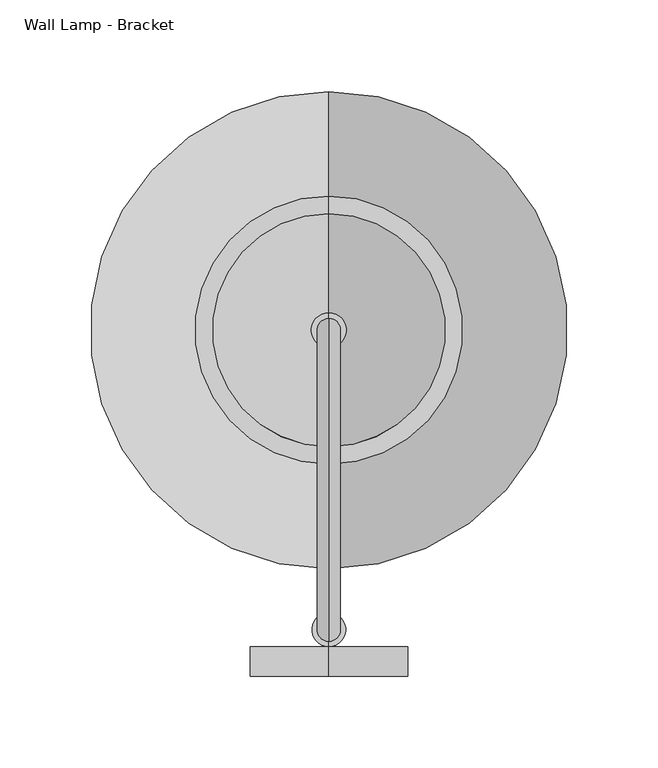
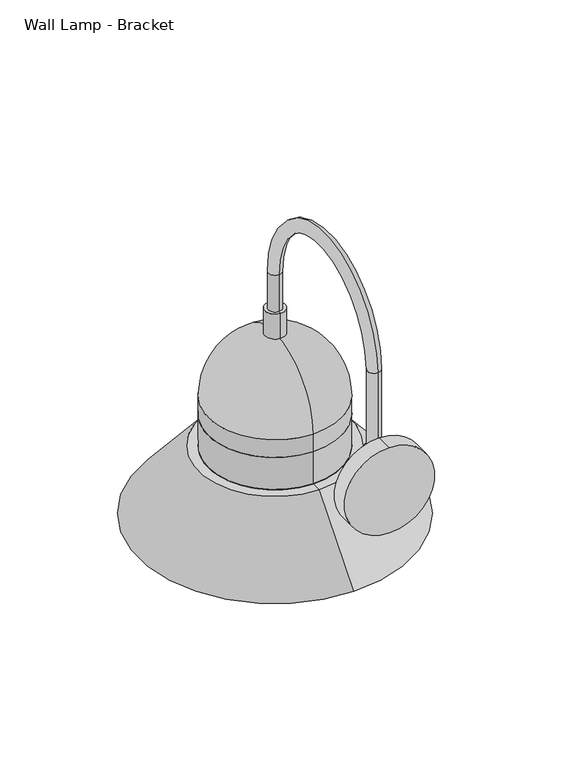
"""IFC4 building model written with IfcOpenShell, lengths in millimetres: light fixture geometry, Wall Lamp - Bracket : super bright by TN."""

from ifc_helpers import new_model, si_unit, point, frame, frame_2d, origin, place, context, project, spatial, polyline, circle_curve, ellipse_curve, trimmed, segment, composite_curve, outline, extrude, source, transform, mapped, element, save
from ifc_brep_helpers import plane_surface, cylinder_surface, revolved_surface, advanced_brep


def wall_lamp_bracket_ed0a6397(model_context):
    return source(origin(), model_context, "Body", "SolidModel", [
        advanced_brep(
        [(-36.3556627, 86.8395413, 2413.7644247), (-36.3556627, 99.5395413, 2413.7644247), (-36.3556627, 99.5395413, 2334.6251468), (-36.3556627, 86.8395413, 2334.6251468), (-36.3556627, 263.0125, 2413.7644247), (-36.3556627, 250.3125, 2413.7644247), (-36.3556627, 263.0125, 2376.6250104), (-36.3556627, 250.3125, 2376.6250104), (-36.3556627, 83.9893793, 2334.6251468), (-36.3556627, 102.3897034, 2334.6251468), (-36.3556627, 102.3897034, 2307.1079598), (-36.3556627, 83.9893793, 2307.1079598), (-36.3556627, 93.1895413, 2297.9077977)],
        [
            (0, 1, circle_curve(frame((-36.3556627, 93.1895413, 2413.7644247), z_axis=(0.0, 0.0, -1.0), x_axis=(0.0, 1.0, 0.0)), 6.35)),
            (1, 2),
            (2, 3, circle_curve(frame((-36.3556627, 93.1895413, 2334.6251468), z_axis=(0.0, 0.0, 1.0), x_axis=(0.0, 1.0, 0.0)), 6.35)),
            (3, 0),
            (1, 0, circle_curve(frame((-36.3556627, 93.1895413, 2413.7644247), z_axis=(0.0, 0.0, -1.0), x_axis=(0.0, 1.0, 0.0)), 6.35)),
            (3, 2, circle_curve(frame((-36.3556627, 93.1895413, 2334.6251468), z_axis=(0.0, 0.0, 1.0), x_axis=(0.0, 1.0, 0.0)), 6.35)),
            (0, 4, circle_curve(frame((-36.3556627, 174.9260207, 2413.7644247), z_axis=(-1.0, 0.0, 0.0), x_axis=(0.0, -1.0, 0.0)), 88.0864793)),
            (4, 5, circle_curve(frame((-36.3556627, 256.6625, 2413.7644247), z_axis=(0.0, 0.0, 1.0), x_axis=(0.0, -1.0, 0.0)), 6.35)),
            (5, 1, circle_curve(frame((-36.3556627, 174.9260207, 2413.7644247), z_axis=(1.0, 0.0, 0.0), x_axis=(0.0, -1.0, 0.0)), 75.3864793)),
            (5, 4, circle_curve(frame((-36.3556627, 256.6625, 2413.7644247), z_axis=(0.0, 0.0, 1.0), x_axis=(0.0, -1.0, 0.0)), 6.35)),
            (6, 7, circle_curve(frame((-36.3556627, 256.6625, 2376.6250104), z_axis=(0.0, 0.0, -1.0), x_axis=(0.0, -1.0, 0.0)), 6.35)),
            (7, 6, circle_curve(frame((-36.3556627, 256.6625, 2376.6250104), z_axis=(0.0, 0.0, -1.0), x_axis=(0.0, -1.0, 0.0)), 6.35)),
            (4, 6),
            (7, 5),
            (8, 9, circle_curve(frame((-36.3556627, 93.1895413, 2334.6251468), z_axis=(0.0, 0.0, 1.0), x_axis=(0.0, -1.0, 0.0)), 9.2001621)),
            (9, 2),
            (3, 8),
            (9, 8, circle_curve(frame((-36.3556627, 93.1895413, 2334.6251468), z_axis=(0.0, 0.0, 1.0), x_axis=(0.0, -1.0, 0.0)), 9.2001621)),
            (10, 11, circle_curve(frame((-36.3556627, 93.1895413, 2307.1079598), z_axis=(0.0, 0.0, -1.0), x_axis=(0.0, -1.0, 0.0)), 9.2001621)),
            (11, 12, circle_curve(frame((-36.3556627, 93.1895413, 2307.1079598), z_axis=(1.0, 0.0, 0.0), x_axis=(0.0, -1.0, 0.0)), 9.2001621)),
            (12, 10, circle_curve(frame((-36.3556627, 93.1895413, 2307.1079598), z_axis=(1.0, 0.0, 0.0), x_axis=(0.0, 1.0, 0.0)), 9.2001621)),
            (11, 10, circle_curve(frame((-36.3556627, 93.1895413, 2307.1079598), z_axis=(0.0, 0.0, -1.0), x_axis=(0.0, -1.0, 0.0)), 9.2001621)),
            (8, 11),
            (10, 9),
        ],
        [
            cylinder_surface(frame((-36.3556627, 93.1895413, 2317.75), z_axis=(0.0, 0.0, -1.0), x_axis=(0.0, 1.0, 0.0)), 6.35),
            revolved_surface(trimmed(ellipse_curve(frame((-36.3556627, 93.1895413, 2413.7644247), z_axis=(0.0, 0.0, -1.0), x_axis=(0.0, 1.0, 0.0)), 6.35, 6.35), [point((-36.3556627, 86.8395413, 2413.7644247))], [point((-36.3556627, 99.5395413, 2413.7644247))], True, "CARTESIAN"), (-36.3556627, 174.9260207, 2413.7644247), (-1.0, 0.0, 0.0)),
            revolved_surface(trimmed(ellipse_curve(frame((-36.3556627, 93.1895413, 2413.7644247), z_axis=(0.0, 0.0, -1.0), x_axis=(0.0, 1.0, 0.0)), 6.35, 6.35), [point((-36.3556627, 99.5395413, 2413.7644247))], [point((-36.3556627, 86.8395413, 2413.7644247))], True, "CARTESIAN"), (-36.3556627, 174.9260207, 2413.7644247), (-1.0, 0.0, 0.0)),
            plane_surface(frame((-36.3556627, 250.3125, 2376.6250104), z_axis=(0.0, 0.0, -1.0), x_axis=(-1.0, 0.0, 0.0))),
            cylinder_surface(frame((-36.3556627, 256.6625, 2413.7644247), z_axis=(0.0, 0.0, 1.0), x_axis=(0.0, -1.0, 0.0)), 6.35),
            plane_surface(frame((-36.3556627, 93.1895413, 2334.6251468), z_axis=(0.0, 0.0, 1.0), x_axis=(0.0, -1.0, 0.0))),
            revolved_surface(trimmed(ellipse_curve(frame((-36.3556627, 93.1895413, 2307.1079598), z_axis=(-1.0, 0.0, 0.0), x_axis=(0.0, -1.0, 0.0)), 9.2001621, 9.2001621), [point((-36.3556627, 93.1895413, 2297.9077977))], [point((-36.3556627, 83.9893793, 2307.1079598))], True, "CARTESIAN"), (-36.3556627, 93.1895413, 2472.7469008), (0.0, 0.0, 1.0)),
            cylinder_surface(frame((-36.3556627, 93.1895413, 2472.7469008), z_axis=(0.0, 0.0, 1.0), x_axis=(0.0, -1.0, 0.0)), 9.2001621),
        ],
        [
            (0, [[1, 2, 3, 4]]),
            (0, [[5, -4, 6, -2]]),
            (1, [[-1, 7, 8, 9]]),
            (2, [[-5, -9, 10, -7]]),
            (3, [[11, 12]]),
            (4, [[-8, 13, -12, 14]]),
            (4, [[-10, -14, -11, -13]]),
            (5, [[15, 16, -6, 17]]),
            (5, [[18, -17, -3, -16]]),
            (6, [[19, 20, 21]]),
            (6, [[-20, 22, -21]]),
            (7, [[-15, 23, -19, 24]]),
            (7, [[-18, -24, -22, -23]]),
        ],
    ),
        extrude(outline(composite_curve([segment(trimmed(circle_curve(frame_2d((2307.1079598, -36.3556627)), 43.0116676), [point((2264.0962922, -36.3556627))], [point((2350.1196273, -36.3556627))], False, "CARTESIAN"), True, "CONTINUOUS"), segment(trimmed(circle_curve(frame_2d((2307.1079598, -36.3556627)), 43.0116676), [point((2350.1196273, -36.3556627))], [point((2264.0962922, -36.3556627))], False, "CARTESIAN"), True, "CONTINUOUS")], self_intersect=False)), frame((0.0, 67.75, 0.0), z_axis=(0.0, 1.0, 0.0), x_axis=(0.0, 0.0, 1.0)), (0.0, 0.0, 1.0), 16.2393793),
        advanced_brep(
        [(-36.3556627, 320.1625, 2237.5701357), (-36.3556627, 193.1625, 2237.5701357), (-36.3556627, 193.1625, 2197.1), (-36.3556627, 320.1625, 2197.1), (-36.3556627, 256.6625, 2237.5701357), (-36.3556627, 256.6625, 2133.6)],
        [
            (0, 1, circle_curve(frame((-36.3556627, 256.6625, 2237.5701357), z_axis=(0.0, 0.0, -1.0), x_axis=(0.0, -1.0, 0.0)), 63.5)),
            (1, 2),
            (2, 3, circle_curve(frame((-36.3556627, 256.6625, 2197.1), z_axis=(0.0, 0.0, 1.0), x_axis=(0.0, -1.0, 0.0)), 63.5)),
            (3, 0),
            (1, 0, circle_curve(frame((-36.3556627, 256.6625, 2237.5701357), z_axis=(0.0, 0.0, -1.0), x_axis=(0.0, -1.0, 0.0)), 63.5)),
            (3, 2, circle_curve(frame((-36.3556627, 256.6625, 2197.1), z_axis=(0.0, 0.0, 1.0), x_axis=(0.0, -1.0, 0.0)), 63.5)),
            (4, 1),
            (0, 4),
            (2, 5, circle_curve(frame((-36.3556627, 256.6625, 2197.1), z_axis=(1.0, 0.0, 0.0), x_axis=(0.0, -1.0, 0.0)), 63.5)),
            (5, 3, circle_curve(frame((-36.3556627, 256.6625, 2197.1), z_axis=(1.0, 0.0, 0.0), x_axis=(0.0, 1.0, 0.0)), 63.5)),
        ],
        [
            cylinder_surface(frame((-36.3556627, 256.6625, -914.4), z_axis=(0.0, 0.0, 1.0), x_axis=(0.0, -1.0, 0.0)), 63.5),
            plane_surface(frame((-36.3556627, 256.6625, 2237.5701357), z_axis=(0.0, 0.0, 1.0), x_axis=(0.0, -1.0, 0.0))),
            revolved_surface(trimmed(ellipse_curve(frame((-36.3556627, 256.6625, 2197.1), z_axis=(-1.0, 0.0, 0.0), x_axis=(0.0, -1.0, 0.0)), 63.5, 63.5), [point((-36.3556627, 256.6625, 2133.6))], [point((-36.3556627, 193.1625, 2197.1))], True, "CARTESIAN"), (-36.3556627, 256.6625, -914.4), (0.0, 0.0, 1.0)),
        ],
        [
            (0, [[1, 2, 3, 4]]),
            (0, [[5, -4, 6, -2]]),
            (1, [[7, -1, 8]]),
            (1, [[-8, -5, -7]]),
            (2, [[-3, 9, 10]]),
            (2, [[-6, -10, -9]]),
        ],
    ),
        advanced_brep(
        [(-36.3556627, 320.1625, 2269.8272766), (-36.3556627, 193.1625, 2269.8272766), (-36.3556627, 193.1625, 2237.5701357), (-36.3556627, 320.1625, 2237.5701357), (-36.3556627, 316.9875, 2269.8272766), (-36.3556627, 196.3375, 2269.8272766), (-36.3556627, 316.9875, 2234.3951357), (-36.3556627, 196.3375, 2234.3951357), (-36.3556627, 328.4169546, 2234.3951357), (-36.3556627, 184.9080454, 2234.3951357), (-36.3556627, 382.697628, 2169.5241129), (-36.3556627, 130.627372, 2169.5241129), (-36.3556627, 386.8375, 2169.5241129), (-36.3556627, 126.4875, 2169.5241129), (-36.3556627, 329.9001529, 2237.5701357), (-36.3556627, 183.4248471, 2237.5701357)],
        [
            (0, 1, circle_curve(frame((-36.3556627, 256.6625, 2269.8272766), z_axis=(0.0, 0.0, -1.0), x_axis=(0.0, -1.0, 0.0)), 63.5)),
            (1, 2),
            (2, 3, circle_curve(frame((-36.3556627, 256.6625, 2237.5701357), z_axis=(0.0, 0.0, 1.0), x_axis=(0.0, -1.0, 0.0)), 63.5)),
            (3, 0),
            (1, 0, circle_curve(frame((-36.3556627, 256.6625, 2269.8272766), z_axis=(0.0, 0.0, -1.0), x_axis=(0.0, -1.0, 0.0)), 63.5)),
            (3, 2, circle_curve(frame((-36.3556627, 256.6625, 2237.5701357), z_axis=(0.0, 0.0, 1.0), x_axis=(0.0, -1.0, 0.0)), 63.5)),
            (4, 5, circle_curve(frame((-36.3556627, 256.6625, 2269.8272766), z_axis=(0.0, 0.0, -1.0), x_axis=(0.0, -1.0, 0.0)), 60.325)),
            (5, 1),
            (0, 4),
            (5, 4, circle_curve(frame((-36.3556627, 256.6625, 2269.8272766), z_axis=(0.0, 0.0, -1.0), x_axis=(0.0, -1.0, 0.0)), 60.325)),
            (6, 7, circle_curve(frame((-36.3556627, 256.6625, 2234.3951357), z_axis=(0.0, 0.0, -1.0), x_axis=(0.0, -1.0, 0.0)), 60.325)),
            (7, 5),
            (4, 6),
            (7, 6, circle_curve(frame((-36.3556627, 256.6625, 2234.3951357), z_axis=(0.0, 0.0, -1.0), x_axis=(0.0, -1.0, 0.0)), 60.325)),
            (8, 9, circle_curve(frame((-36.3556627, 256.6625, 2234.3951357), z_axis=(0.0, 0.0, -1.0), x_axis=(0.0, -1.0, 0.0)), 71.7544546)),
            (9, 7),
            (6, 8),
            (9, 8, circle_curve(frame((-36.3556627, 256.6625, 2234.3951357), z_axis=(0.0, 0.0, -1.0), x_axis=(0.0, -1.0, 0.0)), 71.7544546)),
            (10, 11, circle_curve(frame((-36.3556627, 256.6625, 2169.5241129), z_axis=(0.0, 0.0, -1.0), x_axis=(0.0, -1.0, 0.0)), 126.035128)),
            (11, 9),
            (8, 10),
            (11, 10, circle_curve(frame((-36.3556627, 256.6625, 2169.5241129), z_axis=(0.0, 0.0, -1.0), x_axis=(0.0, -1.0, 0.0)), 126.035128)),
            (12, 13, circle_curve(frame((-36.3556627, 256.6625, 2169.5241129), z_axis=(0.0, 0.0, -1.0), x_axis=(0.0, -1.0, 0.0)), 130.175)),
            (13, 11),
            (10, 12),
            (13, 12, circle_curve(frame((-36.3556627, 256.6625, 2169.5241129), z_axis=(0.0, 0.0, -1.0), x_axis=(0.0, -1.0, 0.0)), 130.175)),
            (14, 15, circle_curve(frame((-36.3556627, 256.6625, 2237.5701357), z_axis=(0.0, 0.0, -1.0), x_axis=(0.0, -1.0, 0.0)), 73.2376529)),
            (15, 13),
            (12, 14),
            (15, 14, circle_curve(frame((-36.3556627, 256.6625, 2237.5701357), z_axis=(0.0, 0.0, -1.0), x_axis=(0.0, -1.0, 0.0)), 73.2376529)),
            (2, 15),
            (14, 3),
        ],
        [
            cylinder_surface(frame((-36.3556627, 256.6625, -914.4), z_axis=(0.0, 0.0, 1.0), x_axis=(0.0, -1.0, 0.0)), 63.5),
            plane_surface(frame((-36.3556627, 256.6625, 2269.8272766), z_axis=(0.0, 0.0, 1.0), x_axis=(0.0, -1.0, 0.0))),
            revolved_surface(polyline([(-36.3556627, 196.33750000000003, 2269.8272766), (-36.3556627, 196.33750000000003, 2234.3951357)]), (-36.3556627, 256.6625, -914.4), (0.0, 0.0, 1.0)),
            plane_surface(frame((-36.3556627, 256.6625, 2234.3951357), z_axis=(0.0, 0.0, -1.0), x_axis=(0.0, -1.0, 0.0))),
            revolved_surface(polyline([(-36.3556627, 184.9080454, 2234.3951357), (-36.3556627, 130.627372, 2169.5241129)]), (-36.3556627, 256.6625, -914.4), (0.0, 0.0, 1.0)),
            plane_surface(frame((-36.3556627, 256.6625, 2169.5241129), z_axis=(0.0, 0.0, -1.0), x_axis=(0.0, -1.0, 0.0))),
            revolved_surface(polyline([(-36.3556627, 126.4875, 2169.5241129), (-36.3556627, 183.4248471, 2237.5701357)]), (-36.3556627, 256.6625, -914.4), (0.0, 0.0, 1.0)),
            plane_surface(frame((-36.3556627, 256.6625, 2237.5701357), z_axis=(0.0, 0.0, 1.0), x_axis=(0.0, -1.0, 0.0))),
        ],
        [
            (0, [[1, 2, 3, 4]]),
            (0, [[5, -4, 6, -2]]),
            (1, [[7, 8, -1, 9]]),
            (1, [[10, -9, -5, -8]]),
            (2, [[11, 12, -7, 13]]),
            (2, [[14, -13, -10, -12]]),
            (3, [[15, 16, -11, 17]]),
            (3, [[18, -17, -14, -16]]),
            (4, [[19, 20, -15, 21]]),
            (4, [[22, -21, -18, -20]]),
            (5, [[23, 24, -19, 25]]),
            (5, [[26, -25, -22, -24]]),
            (6, [[27, 28, -23, 29]]),
            (6, [[30, -29, -26, -28]]),
            (7, [[-3, 31, -27, 32]]),
            (7, [[-6, -32, -30, -31]]),
        ],
    ),
        advanced_brep(
        [(-36.3556627, 320.1625, 2287.7818991), (-36.3556627, 193.1625, 2287.7818991), (-36.3556627, 193.1625, 2269.8272766), (-36.3556627, 320.1625, 2269.8272766), (-36.3556627, 256.6625, 2351.2818991), (-36.3556627, 256.6625, 2269.8272766)],
        [
            (0, 1, circle_curve(frame((-36.3556627, 256.6625, 2287.7818991), z_axis=(0.0, 0.0, -1.0), x_axis=(0.0, -1.0, 0.0)), 63.5)),
            (1, 2),
            (2, 3, circle_curve(frame((-36.3556627, 256.6625, 2269.8272766), z_axis=(0.0, 0.0, 1.0), x_axis=(0.0, -1.0, 0.0)), 63.5)),
            (3, 0),
            (1, 0, circle_curve(frame((-36.3556627, 256.6625, 2287.7818991), z_axis=(0.0, 0.0, -1.0), x_axis=(0.0, -1.0, 0.0)), 63.5)),
            (3, 2, circle_curve(frame((-36.3556627, 256.6625, 2269.8272766), z_axis=(0.0, 0.0, 1.0), x_axis=(0.0, -1.0, 0.0)), 63.5)),
            (4, 1, circle_curve(frame((-36.3556627, 256.6625, 2287.7818991), z_axis=(1.0, 0.0, 0.0), x_axis=(0.0, -1.0, 0.0)), 63.5)),
            (0, 4, circle_curve(frame((-36.3556627, 256.6625, 2287.7818991), z_axis=(1.0, 0.0, 0.0), x_axis=(0.0, 1.0, 0.0)), 63.5)),
            (2, 5),
            (5, 3),
        ],
        [
            cylinder_surface(frame((-36.3556627, 256.6625, -914.4), z_axis=(0.0, 0.0, 1.0), x_axis=(0.0, -1.0, 0.0)), 63.5),
            revolved_surface(trimmed(ellipse_curve(frame((-36.3556627, 256.6625, 2287.7818991), z_axis=(-1.0, 0.0, 0.0), x_axis=(0.0, -1.0, 0.0)), 63.5, 63.5), [point((-36.3556627, 193.1625, 2287.7818991))], [point((-36.3556627, 256.6625, 2351.2818991))], True, "CARTESIAN"), (-36.3556627, 256.6625, -914.4), (0.0, 0.0, 1.0)),
            plane_surface(frame((-36.3556627, 256.6625, 2269.8272766), z_axis=(0.0, 0.0, -1.0), x_axis=(0.0, -1.0, 0.0))),
        ],
        [
            (0, [[1, 2, 3, 4]]),
            (0, [[5, -4, 6, -2]]),
            (1, [[7, -1, 8]]),
            (1, [[-8, -5, -7]]),
            (2, [[-3, 9, 10]]),
            (2, [[-6, -10, -9]]),
        ],
    ),
        advanced_brep(
        [(-36.3556627, 266.1875, 2351.5511541), (-36.3556627, 247.1375, 2351.5511541), (-36.3556627, 256.6625, 2351.5511541), (-36.3556627, 266.1875, 2376.6250104), (-36.3556627, 247.1375, 2376.6250104), (-36.3556627, 256.6625, 2376.6250104)],
        [
            (0, 1, circle_curve(frame((-36.3556627, 256.6625, 2351.5511541), z_axis=(0.0, 0.0, -1.0), x_axis=(0.0, -1.0, 0.0)), 9.525)),
            (1, 2),
            (2, 0),
            (1, 0, circle_curve(frame((-36.3556627, 256.6625, 2351.5511541), z_axis=(0.0, 0.0, -1.0), x_axis=(0.0, -1.0, 0.0)), 9.525)),
            (3, 4, circle_curve(frame((-36.3556627, 256.6625, 2376.6250104), z_axis=(0.0, 0.0, -1.0), x_axis=(0.0, -1.0, 0.0)), 9.525)),
            (4, 1),
            (0, 3),
            (4, 3, circle_curve(frame((-36.3556627, 256.6625, 2376.6250104), z_axis=(0.0, 0.0, -1.0), x_axis=(0.0, -1.0, 0.0)), 9.525)),
            (5, 4),
            (3, 5),
        ],
        [
            plane_surface(frame((-36.3556627, 256.6625, 2351.5511541), z_axis=(0.0, 0.0, -1.0), x_axis=(0.0, -1.0, 0.0))),
            cylinder_surface(frame((-36.3556627, 256.6625, -914.4), z_axis=(0.0, 0.0, 1.0), x_axis=(0.0, -1.0, 0.0)), 9.525),
            plane_surface(frame((-36.3556627, 256.6625, 2376.6250104), z_axis=(0.0, 0.0, 1.0), x_axis=(0.0, -1.0, 0.0))),
        ],
        [
            (0, [[1, 2, 3]]),
            (0, [[4, -3, -2]]),
            (1, [[5, 6, -1, 7]]),
            (1, [[8, -7, -4, -6]]),
            (2, [[9, -5, 10]]),
            (2, [[-10, -8, -9]]),
        ],
    ),
    ])


if __name__ == "__main__":
    model = new_model("IFC4")
    model_context = context("Model", 3, world=origin())
    ifc_project = project(units=[si_unit("LENGTHUNIT", "METRE", prefix="MILLI")], contexts=[model_context])
    site = spatial("IfcSite", under=ifc_project)
    building = spatial("IfcBuilding", under=site)
    placement = place(None, origin())
    wall_lamp_bracket_shape = wall_lamp_bracket_ed0a6397(model_context)
    element("IfcLightFixture", 1, ObjectType="Wall Lamp - Bracket : super bright by TN", at=placement, inside=building, context=model_context, shape_type="MappedRepresentation", body=[
        mapped(wall_lamp_bracket_shape, transform((0.0, 0.0, 0.0), x_axis=(1.0, 0.0, 0.0), y_axis=(0.0, 1.0, 0.0), z_axis=(0.0, 0.0, 1.0))),
    ])
    save(model, "model.ifc")
